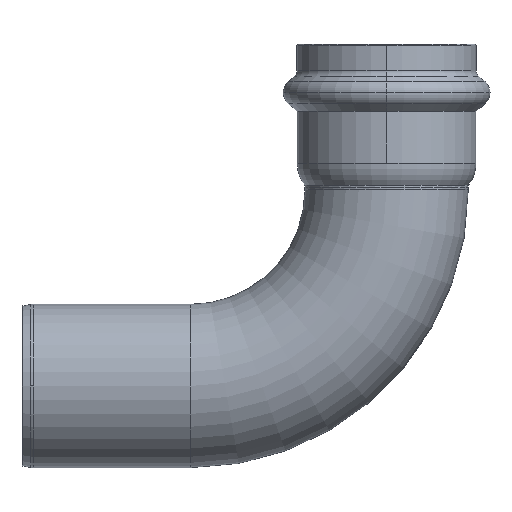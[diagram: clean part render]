
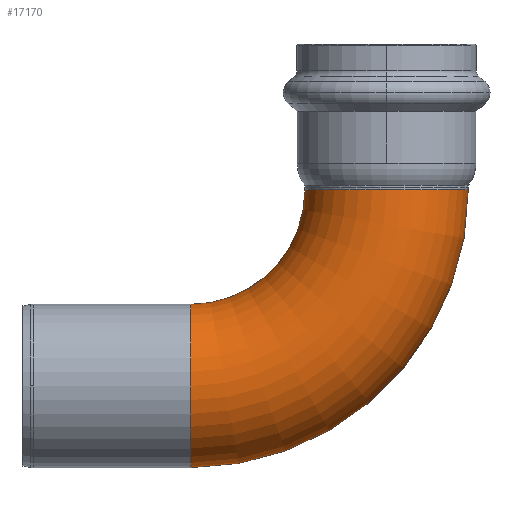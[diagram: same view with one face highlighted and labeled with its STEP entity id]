
A CAD part, left-side view. The second image highlights one B-rep face of the part: STEP entity #17170.
In plain terms, the highlighted toroidal (fillet/blend) face has major radius 42 mm and minor radius 17.5 mm.
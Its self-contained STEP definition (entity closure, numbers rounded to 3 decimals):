
#530=CARTESIAN_POINT('',(-246.511,193.522,0.));
#540=DIRECTION('',(0.,0.,1.));
#550=DIRECTION('',(-1.,0.,0.));
#560=AXIS2_PLACEMENT_3D('',#530,#540,#550);
#570=TOROIDAL_SURFACE('',#560,42.,17.5);
#580=CARTESIAN_POINT('',(-246.511,193.522,0.));
#590=DIRECTION('',(0.,0.,1.));
#600=DIRECTION('',(-1.,0.,0.));
#610=AXIS2_PLACEMENT_3D('',#580,#590,#600);
#620=CIRCLE('',#610,24.5);
#630=CARTESIAN_POINT('',(-271.011,193.522,0.));
#640=VERTEX_POINT('',#630);
#650=CARTESIAN_POINT('',(-246.511,169.022,0.));
#660=VERTEX_POINT('',#650);
#670=EDGE_CURVE('',#640,#660,#620,.T.);
#780=CARTESIAN_POINT('',(-306.011,193.522,
0.));
#790=VERTEX_POINT('',#780);
#820=CARTESIAN_POINT('',(-246.511,193.522,
0.));
#830=DIRECTION('',(0.,0.,1.));
#840=DIRECTION('',(-1.,0.,0.));
#850=AXIS2_PLACEMENT_3D('',#820,#830,#840);
#860=CIRCLE('',#850,59.5);
#870=CARTESIAN_POINT('',(-246.511,134.022,
0.));
#880=VERTEX_POINT('',#870);
#890=EDGE_CURVE('',#790,#880,#860,.T.);
#910=CARTESIAN_POINT('',(-246.511,151.522,0.));
#920=DIRECTION('',(1.,0.,0.));
#930=DIRECTION('',(0.,1.,0.));
#940=AXIS2_PLACEMENT_3D('',#910,#920,#930);
#950=CIRCLE('',#940,17.5);
#2500=EDGE_CURVE('',#660,#880,#950,.T.);
#17050=ORIENTED_EDGE('',*,*,#2500,.F.);
#17060=ORIENTED_EDGE('',*,*,#890,.T.);
#17070=CARTESIAN_POINT('',(-288.511,193.522,0.));
#17080=DIRECTION('',(0.,-1.,0.));
#17090=DIRECTION('',(1.,0.,0.));
#17100=AXIS2_PLACEMENT_3D('',#17070,#17080,#17090);
#17110=CIRCLE('',#17100,17.5);
#17120=EDGE_CURVE('',#640,#790,#17110,.T.);
#17130=ORIENTED_EDGE('',*,*,#17120,.T.);
#17140=ORIENTED_EDGE('',*,*,#670,.F.);
#17150=EDGE_LOOP('',(#17140,#17130,#17060,#17050));
#17160=FACE_OUTER_BOUND('',#17150,.T.);
#17170=ADVANCED_FACE('',(#17160),#570,.T.);
